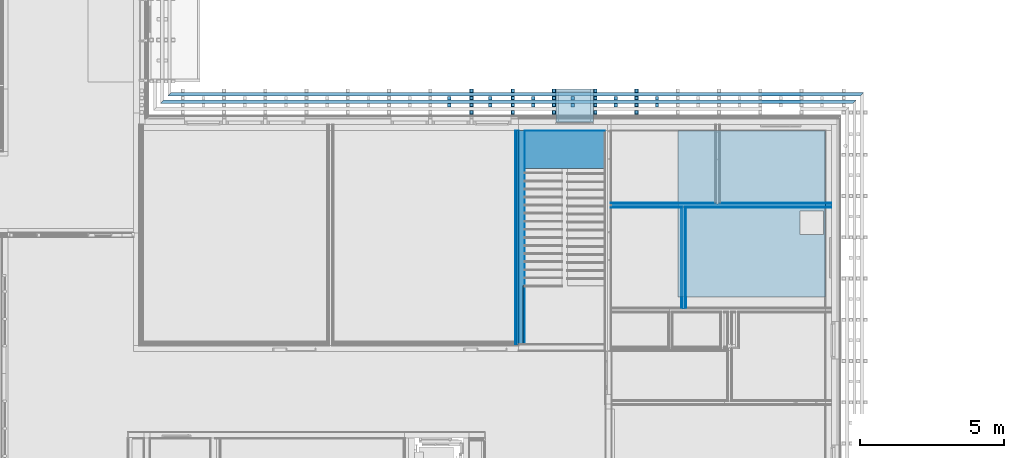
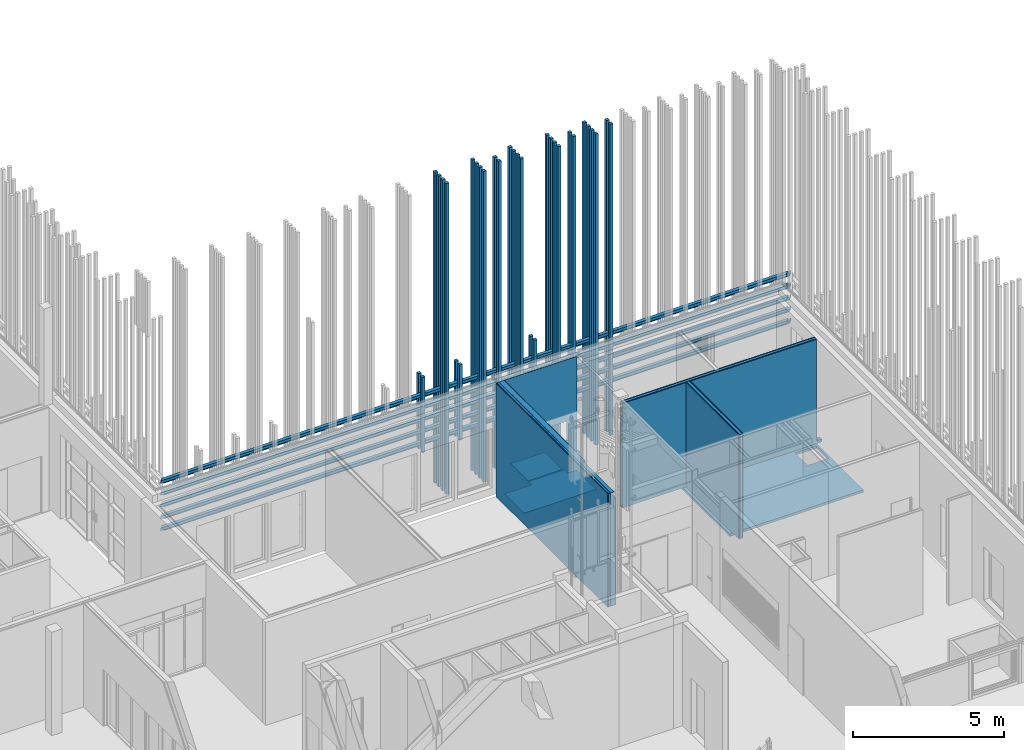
# One storey, part 193 of 260: 23 building element parts, 18 discrete accessories, 1 opening, 5 elements without a shape of their own.
"""IFC2X3 building model written with IfcOpenShell, lengths in millimetres."""

from ifc_helpers import new_model, entity, si_unit, converted_unit, derived_unit, money_unit, direction, frame, origin_with_axes, place, context, subcontext, project, spatial, faceted_brep, material, material_list, type_object, element, aggregate, save


model = new_model("IFC2X3")

# Units and contexts
model_context = context("Model", 3, precision=0.01, world=origin_with_axes(), true_north=direction((0.0, 1.0)))
body_context = subcontext(model_context, "Body", "Model", "MODEL_VIEW")
ifc_project = project(units=[si_unit("LENGTHUNIT", "METRE", prefix="MILLI"), si_unit("AREAUNIT", "SQUARE_METRE"), si_unit("VOLUMEUNIT", "CUBIC_METRE"), converted_unit("PLANEANGLEUNIT", "DEGREE", entity("IfcPlaneAngleMeasure", 0.0174532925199), si_unit("PLANEANGLEUNIT", "RADIAN"), dimensions=[0, 0, 0, 0, 0, 0, 0]), money_unit("EUR"), converted_unit("TIMEUNIT", "Year", entity("IfcTimeMeasure", 31556926.0), si_unit("TIMEUNIT", "SECOND"), dimensions=[0, 0, 1, 0, 0, 0, 0]), si_unit("MASSUNIT", "GRAM", prefix="KILO"), si_unit("THERMODYNAMICTEMPERATUREUNIT", "DEGREE_CELSIUS"), si_unit("LUMINOUSINTENSITYUNIT", "LUMEN"), si_unit("ENERGYUNIT", "JOULE", prefix="MEGA"), derived_unit("THERMALCONDUCTANCEUNIT", [(si_unit("POWERUNIT", "WATT"), 1), (si_unit("LENGTHUNIT", "METRE"), -1), (si_unit("THERMODYNAMICTEMPERATUREUNIT", "KELVIN"), -1)]), derived_unit("SPECIFICHEATCAPACITYUNIT", [(si_unit("ENERGYUNIT", "JOULE"), 1), (si_unit("MASSUNIT", "GRAM", prefix="KILO"), -1), (si_unit("THERMODYNAMICTEMPERATUREUNIT", "KELVIN"), -1)]), derived_unit("MASSDENSITYUNIT", [(si_unit("MASSUNIT", "GRAM", prefix="KILO"), 1), (si_unit("VOLUMEUNIT", "CUBIC_METRE"), -1)])], contexts=[model_context])

# Site, building, storey
site_placement = place(None, origin_with_axes())
site = spatial("IfcSite", under=ifc_project, at=site_placement, Name="Kolde pst 67a", CompositionType="ELEMENT")
building_placement = place(site_placement, origin_with_axes())
building = spatial("IfcBuilding", under=site, at=building_placement, Name="Riigigümnaasium", CompositionType="ELEMENT")
storey_placement = place(building_placement, origin_with_axes())
storey = spatial("IfcBuildingStorey", under=building, at=storey_placement, Name="1. korrus", CompositionType="ELEMENT", Elevation=0.0)

# Discrete accessories
ifc_material_1 = material(Name="_VÄLISVIIMISTLUS - sõrmjätkatud puitprussid 120x115mm, liitekohad vähemärgatavad, Platowood sõrmjätkatud kuusk või samaväärne; eeltöödeldud tuletõkkevõõbaga, tuletundlikkus B-s1, d0, Woodsafe Exterior WFX™ või samaväärne; kinnitused vastavalt EK osale")
ifc_material_list_1 = material_list([ifc_material_1, ifc_material_1, ifc_material_1, ifc_material_1])
discrete_accessory_type_1 = type_object("IfcDiscreteAccessoryType", Name="120 4-ne vertikaalne 870 x 115")
for number, where, z_axis, x_axis in (
    (1, (53692.494314, 60791.9996584, 280.0), (0.0, 0.0, 1.0), (3.13999128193e-06, -0.999999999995, 0.0)),
    (2, (52262.494314, 60791.9996584, 280.0), (0.0, 0.0, 1.0), (3.13999128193e-06, -0.999999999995, 0.0)),
    (3, (50832.494314, 60791.9996584, 280.0), (0.0, 0.0, 1.0), (3.13999128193e-06, -0.999999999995, 0.0)),
    (4, (49402.494314, 60792.0002247, 280.0), (0.0, 0.0, 1.0), (3.13999128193e-06, -0.999999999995, 0.0)),
    (5, (47972.494314, 60792.0002013, 280.0), (0.0, 0.0, 1.0), (3.13999128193e-06, -0.999999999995, 0.0)),
):
    element("IfcDiscreteAccessory", number, at=place(storey_placement, frame(where, z_axis=z_axis, x_axis=x_axis)), inside=storey, type_object=discrete_accessory_type_1, material=ifc_material_list_1, Name="Päikesevarjestus", context=body_context, shape_type="Brep", body=[
        faceted_brep([(-133.0, -70.0, 0.0), (-13.0, -70.0, 0.0), (-13.0, -70.0, 12600.0), (-133.0, -70.0, 12600.0), (-133.0, 45.0, 0.0), (-13.0, 45.0, 0.0), (-13.0, 45.0, 12600.0), (-133.0, 45.0, 12600.0)], [[[0, 1, 2, 3]], [[0, 4, 5, 1]], [[1, 5, 6, 2]], [[3, 2, 6, 7]], [[4, 0, 3, 7]], [[5, 4, 7, 6]]]),
        faceted_brep([(-383.0, -70.0, 0.0), (-263.0, -70.0, 0.0), (-263.0, -70.0, 12600.0), (-383.0, -70.0, 12600.0), (-383.0, 45.0, 0.0), (-263.0, 45.0, 0.0), (-263.0, 45.0, 12600.0), (-383.0, 45.0, 12600.0)], [[[0, 1, 2, 3]], [[0, 4, 5, 1]], [[1, 5, 6, 2]], [[3, 2, 6, 7]], [[4, 0, 3, 7]], [[5, 4, 7, 6]]]),
        faceted_brep([(-633.0, -70.0, 0.0), (-513.0, -70.0, 0.0), (-513.0, -70.0, 12600.0), (-633.0, -70.0, 12600.0), (-633.0, 45.0, 0.0), (-513.0, 45.0, 0.0), (-513.0, 45.0, 12600.0), (-633.0, 45.0, 12600.0)], [[[0, 1, 2, 3]], [[0, 4, 5, 1]], [[1, 5, 6, 2]], [[3, 2, 6, 7]], [[4, 0, 3, 7]], [[5, 4, 7, 6]]]),
        faceted_brep([(-883.0, -70.0, 0.0), (-763.0, -70.0, 0.0), (-763.0, -70.0, 12600.0), (-883.0, -70.0, 12600.0), (-883.0, 45.0, 0.0), (-763.0, 45.0, 0.0), (-763.0, 45.0, 12600.0), (-883.0, 45.0, 12600.0)], [[[0, 1, 2, 3]], [[0, 4, 5, 1]], [[1, 5, 6, 2]], [[3, 2, 6, 7]], [[4, 0, 3, 7]], [[5, 4, 7, 6]]]),
    ])
ifc_material_list_2 = material_list([ifc_material_1, ifc_material_1])
discrete_accessory_type_2 = type_object("IfcDiscreteAccessoryType", Name="1+paiksekaitse 4 tk nihkes 2 370 x 355")
for number, where, z_axis, x_axis in (
    (6, (60804.9936136, 60805.0004469, 2580.00014213), (0.0, 0.0, 1.0), (-3.26569973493e-08, 1.0, 0.0)),
    (7, (60804.9936136, 60805.0004469, 3060.00014213), (0.0, 0.0, 1.0), (-3.26569973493e-08, 1.0, 0.0)),
    (8, (60804.9936136, 60805.0004469, 3540.00014213), (0.0, 0.0, 1.0), (-3.26569973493e-08, 1.0, 0.0)),
):
    element("IfcDiscreteAccessory", number, at=place(storey_placement, frame(where, z_axis=z_axis, x_axis=x_axis)), inside=storey, type_object=discrete_accessory_type_2, material=ifc_material_list_2, Name="Päikesevarjestus", context=body_context, shape_type="Brep", body=[
        faceted_brep([(375.0, 23626.9762595, 347.001360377), (375.0, -375.000006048, 347.001360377), (495.0, -495.000007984, 357.5), (495.0, 23506.9793115, 357.5), (375.0, 23626.9762595, 242.5), (375.0, -375.000006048, 242.5), (495.0, -495.000007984, 242.5), (495.0, 23506.9793115, 242.5)], [[[0, 1, 2, 3]], [[4, 5, 1, 0]], [[5, 6, 2, 1]], [[3, 2, 6, 7]], [[4, 0, 3, 7]], [[7, 6, 5, 4]]]),
        faceted_brep([(625.0, 23376.9826178, 107.001360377), (625.0, -625.00001008, 107.001360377), (745.0, -745.000012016, 117.5), (745.0, 23256.9856698, 117.5), (625.0, 23376.9826178, 2.5), (625.0, -625.00001008, 2.5), (745.0, -745.000012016, 2.5), (745.0, 23256.9856698, 2.5)], [[[0, 1, 2, 3]], [[4, 5, 1, 0]], [[5, 6, 2, 1]], [[3, 2, 6, 7]], [[4, 0, 3, 7]], [[7, 6, 5, 4]]]),
    ])
discrete_accessory_1_placement = place(storey_placement, frame((60804.99419, 60805.0004469, 4020.00014213), z_axis=(0.0, 0.0, 1.0), x_axis=(-3.26569971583e-08, 1.0, 0.0)))
element("IfcDiscreteAccessory", 9, at=discrete_accessory_1_placement, inside=storey, type_object=discrete_accessory_type_2, material=ifc_material_list_2, Name="Päikesevarjestus", context=body_context, shape_type="Brep", body=[
    faceted_brep([(495.0, 23506.9798874, 357.5), (375.0, 23626.9768353, 347.001360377), (375.0, -374.999429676, 347.001360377), (495.0, -494.999431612, 357.5), (495.0, 23506.9798874, 242.5), (375.0, 23626.9768353, 242.5), (375.0, -374.999429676, 242.5), (495.0, -494.999431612, 242.5)], [[[0, 1, 2, 3]], [[4, 5, 1, 0]], [[1, 5, 6, 2]], [[2, 6, 7, 3]], [[4, 0, 3, 7]], [[5, 4, 7, 6]]]),
    faceted_brep([(625.0, 23376.9831938, 107.001360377), (625.0, -624.999433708, 107.001360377), (745.0, -744.999435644, 117.5), (745.0, 23256.9862459, 117.5), (625.0, 23376.9831938, 2.5), (625.0, -624.999433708, 2.5), (745.0, -744.999435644, 2.5), (745.0, 23256.9862459, 2.5)], [[[0, 1, 2, 3]], [[4, 5, 1, 0]], [[5, 6, 2, 1]], [[3, 2, 6, 7]], [[4, 0, 3, 7]], [[7, 6, 5, 4]]]),
])
discrete_accessory_2_placement = place(storey_placement, frame((60804.9936136, 60805.0004469, 2100.00014213), z_axis=(0.0, 0.0, 1.0), x_axis=(-3.26569973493e-08, 1.0, 0.0)))
element("IfcDiscreteAccessory", 10, at=discrete_accessory_2_placement, inside=storey, type_object=discrete_accessory_type_2, material=ifc_material_list_2, Name="Päikesevarjestus", context=body_context, shape_type="Brep", body=[
    faceted_brep([(375.0, 23626.9762595, 347.001360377), (375.0, -375.000006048, 347.001360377), (495.0, -495.000007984, 357.5), (495.0, 23506.9793115, 357.5), (375.0, 23626.9762595, 242.5), (375.0, -375.000006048, 242.5), (495.0, -495.000007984, 242.5), (495.0, 23506.9793115, 242.5)], [[[0, 1, 2, 3]], [[4, 5, 1, 0]], [[5, 6, 2, 1]], [[3, 2, 6, 7]], [[4, 0, 3, 7]], [[7, 6, 5, 4]]]),
    faceted_brep([(625.0, 23376.9826178, 107.001360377), (625.0, -625.00001008, 107.001360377), (745.0, -745.000012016, 117.5), (745.0, 23256.9856698, 117.5), (625.0, 23376.9826178, 2.5), (625.0, -625.00001008, 2.5), (745.0, -745.000012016, 2.5), (745.0, 23256.9856698, 2.5)], [[[0, 1, 2, 3]], [[4, 5, 1, 0]], [[5, 6, 2, 1]], [[3, 2, 6, 7]], [[4, 0, 3, 7]], [[7, 6, 5, 4]]]),
])
discrete_accessory_type_3 = type_object("IfcDiscreteAccessoryType", Name="1+paiksekaitse 3 370 x 115")
for number, where, z_axis, x_axis in (
    (11, (54334.9923672, 61772.0001843, 280.0), (0.0, 0.0, 1.0), (0.0, -1.0, 0.0)),
    (12, (52904.9923672, 61772.0001843, 280.0), (0.0, 0.0, 1.0), (0.0, -1.0, 0.0)),
    (13, (50044.9923672, 61772.0001843, 280.0), (0.0, 0.0, 1.0), (0.0, -1.0, 0.0)),
):
    element("IfcDiscreteAccessory", number, at=place(storey_placement, frame(where, z_axis=z_axis, x_axis=x_axis)), inside=storey, type_object=discrete_accessory_type_3, material=ifc_material_list_2, Name="Päikesevarjestus", context=body_context, shape_type="Brep", body=[
        faceted_brep([(467.0, 117.5, 0.0), (347.0, 117.5, 0.0), (347.0, 117.5, 12599.9999329), (467.0, 117.5, 12599.9999329), (467.0, 2.5, 0.0), (347.0, 2.5, 0.0), (347.0, 2.5, 12599.9999329), (467.0, 2.5, 12599.9999329)], [[[0, 1, 2, 3]], [[0, 4, 5, 1]], [[1, 5, 6, 2]], [[3, 2, 6, 7]], [[4, 0, 3, 7]], [[5, 4, 7, 6]]]),
        faceted_brep([(717.0, 117.5, 0.0), (597.0, 117.5, 0.0), (597.0, 117.5, 12599.9999329), (717.0, 117.5, 12599.9999329), (717.0, 2.5, 0.0), (597.0, 2.5, 0.0), (597.0, 2.5, 12599.9999329), (717.0, 2.5, 12599.9999329)], [[[0, 1, 2, 3]], [[0, 4, 5, 1]], [[1, 5, 6, 2]], [[3, 2, 6, 7]], [[4, 0, 3, 7]], [[5, 4, 7, 6]]]),
    ])
for number, where, z_axis, x_axis in (
    (14, (48554.9923672, 61772.0001843, 2100.00014213), (0.0, 0.0, 1.0), (0.0, -1.0, 0.0)),
    (15, (47124.9923672, 61772.0001843, 2100.00014213), (0.0, 0.0, 1.0), (0.0, -1.0, 0.0)),
    (16, (51414.9923672, 61772.0001843, 2100.00014213), (0.0, 0.0, 1.0), (0.0, -1.0, 0.0)),
):
    element("IfcDiscreteAccessory", number, at=place(storey_placement, frame(where, z_axis=z_axis, x_axis=x_axis)), inside=storey, type_object=discrete_accessory_type_3, material=ifc_material_list_2, Name="Päikesevarjestus", context=body_context, shape_type="Brep", body=[
        faceted_brep([(467.0, 117.5, 0.0), (347.0, 117.5, 0.0), (347.0, 117.5, 3050.0), (467.0, 117.5, 3050.0), (467.0, 2.5, 0.0), (347.0, 2.5, 0.0), (347.0, 2.5, 3050.0), (467.0, 2.5, 3050.0)], [[[0, 1, 2, 3]], [[0, 4, 5, 1]], [[1, 5, 6, 2]], [[3, 2, 6, 7]], [[4, 0, 3, 7]], [[5, 4, 7, 6]]]),
        faceted_brep([(717.0, 117.5, 0.0), (597.0, 117.5, 0.0), (597.0, 117.5, 3050.0), (717.0, 117.5, 3050.0), (717.0, 2.5, 0.0), (597.0, 2.5, 0.0), (597.0, 2.5, 3050.0), (717.0, 2.5, 3050.0)], [[[0, 1, 2, 3]], [[0, 4, 5, 1]], [[1, 5, 6, 2]], [[3, 2, 6, 7]], [[4, 0, 3, 7]], [[5, 4, 7, 6]]]),
    ])
ifc_material_2 = material(Name="_METALL - teras")
discrete_accessory_type_4 = type_object("IfcDiscreteAccessoryType", Name="_METALL - teras 22")
discrete_accessory_3_placement = place(storey_placement, frame((50842.4663698, 60229.9954049, 0.0), z_axis=(0.0, 0.0, 1.0), x_axis=(1.0, 0.0, 0.0)))
element("IfcDiscreteAccessory", 17, at=discrete_accessory_3_placement, inside=storey, type_object=discrete_accessory_type_4, material=ifc_material_2, Name="süvistatud poritõkkesüsteem 5mm vastavalt SA osale", context=body_context, shape_type="Brep", body=[
    faceted_brep([(0.0, 0.0, 0.0), (0.0, 0.0, -22.0), (-1032.45631425, 0.0, -22.0), (-1032.45631425, 0.0, 0.0), (0.0, 210.004779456, 0.0), (0.0, 210.004779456, -22.0), (1390.36814488, 210.004779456, -22.0), (1390.36814488, 0.00321708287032, -22.0), (1737.52775242, 0.00321708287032, -22.0), (1737.52775242, -1299.99521815, -22.0), (-1032.45631425, -1299.99521815, -22.0), (-1032.45631425, -1299.99521815, 0.0), (1737.52775242, -1299.99521815, 0.0), (1737.52775242, 0.00321708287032, 0.0), (1390.36814488, 0.00321708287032, 0.0), (1390.36814488, 210.004779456, 0.0)], [[[0, 1, 2, 3]], [[4, 5, 1, 0]], [[2, 1, 5, 6, 7, 8, 9, 10]], [[3, 2, 10, 11]], [[4, 0, 3, 11, 12, 13, 14, 15]], [[15, 6, 5, 4]], [[14, 7, 6, 15]], [[13, 8, 7, 14]], [[12, 9, 8, 13]], [[11, 10, 9, 12]]]),
])
discrete_accessory_4_placement = place(storey_placement, frame((52192.4945234, 61674.9994386, -20.0), z_axis=(0.0, 0.0, 1.0), x_axis=(1.0, 0.0, 0.0)))
element("IfcDiscreteAccessory", 18, at=discrete_accessory_4_placement, inside=storey, type_object=discrete_accessory_type_4, material=ifc_material_2, Name="süvistatud poritõkkesüsteem 4mm vastavalt SA osale", context=body_context, shape_type="Brep", body=[
    faceted_brep([(0.0, 0.0, 0.0), (0.0, 0.0, -22.0), (-1309.95948641, 0.00037678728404, -22.0), (-1309.95948641, 0.00037678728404, 0.0), (-0.000333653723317, -1159.99893842, 0.0), (-0.000333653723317, -1159.99893842, -22.0), (-1309.95982006, -1159.99856163, -22.0), (-1309.95982006, -1159.99856163, 0.0)], [[[0, 1, 2, 3]], [[4, 5, 1, 0]], [[2, 1, 5, 6]], [[3, 2, 6, 7]], [[4, 0, 3, 7]], [[7, 6, 5, 4]]]),
])

# Wall, building element parts
wall_type_1 = type_object("IfcWallType", Name="SS-RB-20/9_kipsil krohv+roov66 +krohv 325", PredefinedType="NOTDEFINED")
wall_1_placement = place(storey_placement, frame((49800.0100555, 52820.0001843, 0.0), z_axis=(0.0, 0.0, 1.0), x_axis=(0.0, 1.0, 0.0)))
wall_1 = element("IfcWall", 19, at=wall_1_placement, inside=storey, type_object=wall_type_1, Name="Sisesein")
ifc_material_3 = material(Name="_VIIMISTLUSKIHT - viimistlus vastavalt SA osale")
building_element_part_1_placement = place(wall_1_placement, origin_with_axes())
building_element_part_1 = element("IfcBuildingElementPart", 20, at=building_element_part_1_placement, material=ifc_material_3, Name="_VIIMISTLUSKIHT - viimistlus vastavalt SA osale", context=body_context, shape_type="Brep", body=[
    faceted_brep([(7420.0, 306.0, 4600.0), (7420.0, 315.0, 4600.0), (0.0, 315.0, 4600.0), (0.0, 306.0, 4600.0), (7420.0, 306.0, 0.0), (7420.0, 315.0, 0.0), (0.0, 315.0, 0.0), (0.0, 306.0, 0.0)], [[[0, 1, 2, 3]], [[0, 4, 5, 1]], [[1, 5, 6, 2]], [[3, 2, 6, 7]], [[4, 0, 3, 7]], [[5, 4, 7, 6]]]),
])
ifc_material_4 = material(Name="_PLAATMATERJAL - tuletõkkekipsplaat, Knauf Red GKF või samaväärne")
building_element_part_2_placement = place(wall_1_placement, origin_with_axes())
building_element_part_2 = element("IfcBuildingElementPart", 21, at=building_element_part_2_placement, material=ifc_material_4, Name="_PLAATMATERJAL - tuletõkkekipsplaat, Knauf Red GKF või samaväärne", context=body_context, shape_type="Brep", body=[
    faceted_brep([(7420.0, 291.0, 4600.0), (7420.0, 306.0, 4600.0), (0.0, 306.0, 4600.0), (0.0, 291.0, 4600.0), (7420.0, 291.0, 0.0), (7420.0, 306.0, 0.0), (0.0, 306.0, 0.0), (0.0, 291.0, 0.0)], [[[0, 1, 2, 3]], [[0, 4, 5, 1]], [[1, 5, 6, 2]], [[3, 2, 6, 7]], [[4, 0, 3, 7]], [[5, 4, 7, 6]]]),
])
ifc_material_5 = material(Name="_PLAATMATERJAL - OSB3 plaat")
building_element_part_3_placement = place(wall_1_placement, origin_with_axes())
building_element_part_3 = element("IfcBuildingElementPart", 22, at=building_element_part_3_placement, material=ifc_material_5, Name="_PLAATMATERJAL - OSB3 plaat", context=body_context, shape_type="Brep", body=[
    faceted_brep([(7420.0, 276.0, 4600.0), (7420.0, 291.0, 4600.0), (0.0, 291.0, 4600.0), (0.0, 276.0, 4600.0), (7420.0, 276.0, 0.0), (7420.0, 291.0, 0.0), (0.0, 291.0, 0.0), (0.0, 276.0, 0.0)], [[[0, 1, 2, 3]], [[0, 4, 5, 1]], [[1, 5, 6, 2]], [[3, 2, 6, 7]], [[4, 0, 3, 7]], [[5, 4, 7, 6]]]),
])
ifc_material_6 = material(Name="_KARKASS - metallkarkass CW 66/35/06, samm 600, mineraalvill karkassi vahel")
building_element_part_4_placement = place(wall_1_placement, origin_with_axes())
building_element_part_4 = element("IfcBuildingElementPart", 23, at=building_element_part_4_placement, material=ifc_material_6, Name="_KARKASS - metallkarkass CW 66/35/06, samm 600, mineraalvill karkassi vahel", context=body_context, shape_type="Brep", body=[
    faceted_brep([(7420.0, 210.0, 4600.0), (7420.0, 276.0, 4600.0), (0.0, 276.0, 4600.0), (0.0, 210.0, 4600.0), (7420.0, 210.0, 0.0), (7420.0, 276.0, 0.0), (0.0, 276.0, 0.0), (0.0, 210.0, 0.0)], [[[0, 1, 2, 3]], [[0, 4, 5, 1]], [[1, 5, 6, 2]], [[3, 2, 6, 7]], [[4, 0, 3, 7]], [[5, 4, 7, 6]]]),
])
ifc_material_7 = material(Name="_ÕHKVAHE")
building_element_part_5_placement = place(wall_1_placement, origin_with_axes())
building_element_part_5 = element("IfcBuildingElementPart", 24, at=building_element_part_5_placement, material=ifc_material_7, Name="_ÕHKVAHE", context=body_context, shape_type="Brep", body=[
    faceted_brep([(7420.0, 200.0, 4600.0), (7420.0, 210.0, 4600.0), (0.0, 210.0, 4600.0), (0.0, 200.0, 4600.0), (7420.0, 200.0, 0.0), (7420.0, 210.0, 0.0), (0.0, 210.0, 0.0), (0.0, 200.0, 0.0)], [[[0, 1, 2, 3]], [[0, 4, 5, 1]], [[1, 5, 6, 2]], [[3, 2, 6, 7]], [[4, 0, 3, 7]], [[5, 4, 7, 6]]]),
])
ifc_material_8 = material(Name="_KANDETARIND - monteeritav raudbetoon vastavalt EK osale")
building_element_part_6_placement = place(wall_1_placement, origin_with_axes())
building_element_part_6 = element("IfcBuildingElementPart", 25, at=building_element_part_6_placement, material=ifc_material_8, Name="_KANDETARIND - monteeritav raudbetoon vastavalt EK osale", context=body_context, shape_type="Brep", body=[
    faceted_brep([(2039.99901252, 60.0233833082, 4600.0), (2039.99901252, 60.0233833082, 4310.0), (2039.99939783, 0.0, 4310.0), (2039.99939783, 0.0, 4600.0), (0.0, 60.0233833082, 4310.0), (0.0, 60.0233833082, 4600.0), (0.0, 0.0, 4310.0), (0.0, 0.0, 0.0), (7420.0, 0.0, 0.0), (7420.0, 0.0, 4600.0), (7420.0, 200.0, 4600.0), (0.0, 200.0, 4600.0), (0.0, 200.0, 0.0), (7420.0, 200.0, 0.0)], [[[0, 1, 2, 3]], [[4, 1, 0, 5]], [[6, 2, 1, 4]], [[2, 6, 7, 8, 9, 3]], [[5, 0, 3, 9, 10, 11]], [[4, 5, 11, 12, 7, 6]], [[12, 13, 8, 7]], [[10, 9, 8, 13]], [[11, 10, 13, 12]]]),
])
building_element_part_7_placement = place(wall_1_placement, origin_with_axes())
building_element_part_7 = element("IfcBuildingElementPart", 26, at=building_element_part_7_placement, material=ifc_material_3, Name="_VIIMISTLUSKIHT - viimistlus vastavalt SA osale", context=body_context, shape_type="Brep", body=[
    faceted_brep([(2039.99939783, 0.0, 4600.0), (2039.99939783, 0.0, 4310.0), (2039.99946202, -10.0, 4310.0), (2039.99946202, -10.0, 4600.0), (7420.0, 0.0, 4600.0), (7420.0, 0.0, 0.0), (0.0, 0.0, 0.0), (0.0, 0.0, 4310.0), (0.0, -10.0, 4310.0), (0.0, -10.0, 0.0), (7420.0, -10.0, 0.0), (7420.0, -10.0, 4600.0)], [[[0, 1, 2, 3]], [[1, 0, 4, 5, 6, 7]], [[8, 2, 1, 7]], [[2, 8, 9, 10, 11, 3]], [[0, 3, 11, 4]], [[4, 11, 10, 5]], [[6, 5, 10, 9]], [[8, 7, 6, 9]]]),
])
aggregate(wall_1, [building_element_part_1, building_element_part_2, building_element_part_3, building_element_part_4, building_element_part_5, building_element_part_6, building_element_part_7])

wall_type_2 = type_object("IfcWallType", Name="SS-PK-10/9_vill100+2värv 170", PredefinedType="NOTDEFINED")
wall_2_placement = place(storey_placement, frame((52789.9941222, 57730.0055844, 0.0), z_axis=(0.0, 0.0, 1.0), x_axis=(1.0, 0.0, 0.0)))
wall_2 = element("IfcWall", 27, at=wall_2_placement, inside=storey, type_object=wall_type_2, Name="Sisesein")
building_element_part_8_placement = place(wall_2_placement, origin_with_axes())
building_element_part_8 = element("IfcBuildingElementPart", 28, at=building_element_part_8_placement, material=ifc_material_3, Name="_VIIMISTLUSKIHT - viimistlus vastavalt SA osale", context=body_context, shape_type="Brep", body=[
    faceted_brep([(7440.0, 0.0, 4230.00000998), (7440.0, 0.0, 100.0), (7650.0, 0.0, 100.0), (7650.0, 0.0, 0.0), (3784.99979344, 0.0, 0.0), (3784.99979344, 0.0, 4230.00000998), (7440.0, -5.0, 4230.00000998), (7440.0, -4.99999940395, 100.0), (7650.0, -4.99999940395, 100.0), (7650.0, -4.99999940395, 0.0), (3784.99979344, -4.99999970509, 0.0), (3784.99979344, -5.0, 4230.00000998)], [[[0, 1, 2, 3, 4, 5]], [[1, 0, 6, 7]], [[2, 1, 7, 8]], [[2, 8, 9, 3]], [[4, 3, 9, 10]], [[5, 4, 10, 11]], [[6, 0, 5, 11]], [[7, 6, 11, 10, 9, 8]]]),
    faceted_brep([(3624.99979344, 0.0, 0.0), (0.0, 0.0, 0.0), (0.0, 0.0, 4230.00000998), (3624.99979344, 0.0, 4230.00000998), (3624.99979344, -4.99999971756, 0.0), (0.0, -5.0, 0.0), (0.0, -5.0, 4230.00000998), (3624.99979344, -5.0, 4230.00000998)], [[[0, 1, 2, 3]], [[4, 5, 1, 0]], [[5, 6, 2, 1]], [[3, 2, 6, 7]], [[0, 3, 7, 4]], [[7, 6, 5, 4]]]),
])
building_element_part_9_placement = place(wall_2_placement, origin_with_axes())
building_element_part_9 = element("IfcBuildingElementPart", 29, at=building_element_part_9_placement, material=ifc_material_4, Name="_PLAATMATERJAL - tuletõkkekipsplaat, Knauf Red GKF või samaväärne", context=body_context, shape_type="Brep", body=[
    faceted_brep([(7450.0, -5.0, 4230.00000998), (7450.0, -4.99999940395, 100.0), (7650.0, -4.99999940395, 100.0), (7650.0, -4.99999940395, 0.0), (3769.99979344, -4.99999970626, 0.0), (3769.99979344, -5.0, 4230.00000998), (7450.0, -20.0, 4230.00000998), (7450.0, -20.000000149, 100.0), (7650.0, -20.000000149, 100.0), (7650.0, -20.000000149, 0.0), (3769.99979344, -20.0000000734, 0.0), (3769.99979344, -20.0, 4230.00000998)], [[[0, 1, 2, 3, 4, 5]], [[1, 0, 6, 7]], [[8, 2, 1, 7]], [[2, 8, 9, 3]], [[4, 3, 9, 10]], [[5, 4, 10, 11]], [[6, 0, 5, 11]], [[7, 6, 11, 10, 9, 8]]]),
    faceted_brep([(3639.99979344, -4.99999971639, 0.0), (0.0, -5.0, 0.0), (0.0, -5.0, 4230.00000998), (3639.99979344, -5.0, 4230.00000998), (3639.99979344, -20.0000000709, 0.0), (0.0, -20.0, 0.0), (0.0, -20.0, 4230.00000998), (3639.99979344, -20.0, 4230.00000998)], [[[0, 1, 2, 3]], [[4, 5, 1, 0]], [[5, 6, 2, 1]], [[3, 2, 6, 7]], [[0, 3, 7, 4]], [[7, 6, 5, 4]]]),
])
building_element_part_10_placement = place(wall_2_placement, origin_with_axes())
building_element_part_10 = element("IfcBuildingElementPart", 30, at=building_element_part_10_placement, material=ifc_material_5, Name="_PLAATMATERJAL - OSB3 plaat", context=body_context, shape_type="Brep", body=[
    faceted_brep([(7450.0, -20.0, 4230.00000998), (7450.0, -20.000000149, 100.0), (7650.0, -20.000000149, 100.0), (7650.0, -20.000000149, 0.0), (3754.99979344, -20.0000000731, 0.0), (3754.99979344, -20.0, 4230.00000998), (7450.0, -35.0, 4230.00000998), (7450.0, -35.0000008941, 100.0), (7650.0, -35.0000008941, 100.0), (7650.0, -35.0000008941, 0.0), (3754.99979344, -35.0000004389, 0.0), (3754.99979344, -35.0, 4230.00000998)], [[[0, 1, 2, 3, 4, 5]], [[1, 0, 6, 7]], [[8, 2, 1, 7]], [[2, 8, 9, 3]], [[4, 3, 9, 10]], [[5, 4, 10, 11]], [[6, 0, 5, 11]], [[7, 6, 11, 10, 9, 8]]]),
    faceted_brep([(3654.99979344, -20.0000000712, 0.0), (0.0, -20.0, 0.0), (0.0, -20.0, 4230.00000998), (3654.99979344, -20.0, 4230.00000998), (3654.99979344, -35.0000004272, 0.0), (0.0, -35.0, 0.0), (0.0, -35.0, 4230.00000998), (3654.99979344, -35.0, 4230.00000998)], [[[0, 1, 2, 3]], [[4, 5, 1, 0]], [[5, 6, 2, 1]], [[3, 2, 6, 7]], [[0, 3, 7, 4]], [[7, 6, 5, 4]]]),
])
ifc_material_9 = material(Name="_KARKASS - puitpruss 100x50mm vertikaalne, samm 600mm, vahel mineraalvill, helineeldetegur αw = 1.0, ISOVER ACOUSTIC 100mm või samaväärne")
building_element_part_11_placement = place(wall_2_placement, origin_with_axes())
building_element_part_11 = element("IfcBuildingElementPart", 31, at=building_element_part_11_placement, material=ifc_material_9, Name="_KARKASS - puitpruss 100x50mm vertikaalne, samm 600mm, vahel mineraalvill, helineeldetegur αw = 1.0, ISOVER ACOUSTIC 100mm või samaväärne", context=body_context, shape_type="Brep", body=[
    faceted_brep([(7450.0, -35.0, 4230.00000998), (7450.0, -35.0000008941, 100.0), (7650.0, -35.0000008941, 100.0), (7650.0, -35.0000008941, 0.0), (0.0, -35.0, 0.0), (0.0, -35.0, 4230.00000998), (7450.0, -135.0, 4230.00000998), (7450.0, -134.999999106, 100.0), (7650.0, -134.999999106, 100.0), (7650.0, -134.999999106, 0.0), (0.0, -135.0, 0.0), (0.0, -135.0, 4230.00000998)], [[[0, 1, 2, 3, 4, 5]], [[1, 0, 6, 7]], [[8, 2, 1, 7]], [[2, 8, 9, 3]], [[4, 3, 9, 10]], [[4, 10, 11, 5]], [[6, 0, 5, 11]], [[7, 6, 11, 10, 9, 8]]]),
])
building_element_part_12_placement = place(wall_2_placement, origin_with_axes())
building_element_part_12 = element("IfcBuildingElementPart", 32, at=building_element_part_12_placement, material=ifc_material_5, Name="_PLAATMATERJAL - OSB3 plaat", context=body_context, shape_type="Brep", body=[
    faceted_brep([(7450.0, -135.0, 4230.00000998), (7450.0, -134.999999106, 100.0), (7650.0, -134.999999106, 100.0), (7650.0, -134.999999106, 0.0), (2575.0, -134.999999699, 0.0), (2575.0, -135.0, 4230.00000998), (7450.0, -150.0, 4230.00000998), (7450.0, -149.999999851, 100.0), (7650.0, -149.999999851, 100.0), (7650.0, -149.999999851, 0.0), (2575.0, -149.99999995, 0.0), (2575.0, -150.0, 4230.00000998)], [[[0, 1, 2, 3, 4, 5]], [[1, 0, 6, 7]], [[8, 2, 1, 7]], [[2, 8, 9, 3]], [[4, 3, 9, 10]], [[5, 4, 10, 11]], [[6, 0, 5, 11]], [[7, 6, 11, 10, 9, 8]]]),
    faceted_brep([(2475.0, -134.999999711, 0.0), (0.0, -135.0, 0.0), (0.0, -135.0, 4230.00000998), (2475.0, -135.0, 4230.00000998), (2475.0, -149.999999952, 0.0), (0.0, -150.0, 0.0), (0.0, -150.0, 4230.00000998), (2475.0, -150.0, 4230.00000998)], [[[0, 1, 2, 3]], [[4, 5, 1, 0]], [[5, 6, 2, 1]], [[3, 2, 6, 7]], [[0, 3, 7, 4]], [[7, 6, 5, 4]]]),
])
building_element_part_13_placement = place(wall_2_placement, origin_with_axes())
building_element_part_13 = element("IfcBuildingElementPart", 33, at=building_element_part_13_placement, material=ifc_material_4, Name="_PLAATMATERJAL - tuletõkkekipsplaat, Knauf Red GKF või samaväärne", context=body_context, shape_type="Brep", body=[
    faceted_brep([(7450.0, -150.0, 4230.00000998), (7450.0, -149.999999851, 100.0), (7650.0, -149.999999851, 100.0), (7650.0, -149.999999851, 0.0), (2590.0, -149.99999995, 0.0), (2590.0, -150.0, 4230.00000998), (7450.0, -165.0, 4230.00000998), (7450.0, -165.000000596, 100.0), (7650.0, -165.000000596, 100.0), (7650.0, -165.000000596, 0.0), (2590.0, -165.000000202, 0.0), (2590.0, -165.0, 4230.00000998)], [[[0, 1, 2, 3, 4, 5]], [[1, 0, 6, 7]], [[8, 2, 1, 7]], [[2, 8, 9, 3]], [[4, 3, 9, 10]], [[5, 4, 10, 11]], [[6, 0, 5, 11]], [[7, 6, 11, 10, 9, 8]]]),
    faceted_brep([(2460.0, -149.999999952, 0.0), (0.0, -150.0, 0.0), (0.0, -150.0, 4230.00000998), (2460.0, -150.0, 4230.00000998), (2460.0, -165.000000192, 0.0), (0.0, -165.0, 0.0), (0.0, -165.0, 4230.00000998), (2460.0, -165.0, 4230.00000998)], [[[0, 1, 2, 3]], [[4, 5, 1, 0]], [[5, 6, 2, 1]], [[3, 2, 6, 7]], [[0, 3, 7, 4]], [[7, 6, 5, 4]]]),
])
building_element_part_14_placement = place(wall_2_placement, origin_with_axes())
building_element_part_14 = element("IfcBuildingElementPart", 34, at=building_element_part_14_placement, material=ifc_material_3, Name="_VIIMISTLUSKIHT - viimistlus vastavalt SA osale", context=body_context, shape_type="Brep", body=[
    faceted_brep([(7440.0, -165.0, 4230.00000998), (7440.0, -165.000000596, 100.0), (7650.0, -165.000000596, 100.0), (7650.0, -165.000000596, 0.0), (2605.0, -165.000000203, 0.0), (2605.0, -165.0, 4230.00000998), (7440.0, -170.0, 4230.00000998), (7440.0, -170.0, 100.0), (7650.0, -170.0, 100.0), (7650.0, -170.0, 0.0), (2605.0, -170.0, 0.0), (2605.0, -170.0, 4230.00000998)], [[[0, 1, 2, 3, 4, 5]], [[1, 0, 6, 7]], [[2, 1, 7, 8]], [[2, 8, 9, 3]], [[4, 3, 9, 10]], [[5, 4, 10, 11]], [[6, 0, 5, 11]], [[7, 6, 11, 10, 9, 8]]]),
    faceted_brep([(2445.0, -165.000000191, 0.0), (0.0, -165.0, 0.0), (0.0, -165.0, 4230.00000998), (2445.0, -165.0, 4230.00000998), (2445.0, -170.0, 0.0), (0.0, -170.0, 0.0), (0.0, -170.0, 4230.00000998), (2445.0, -170.0, 4230.00000998)], [[[0, 1, 2, 3]], [[4, 5, 1, 0]], [[5, 6, 2, 1]], [[3, 2, 6, 7]], [[0, 3, 7, 4]], [[7, 6, 5, 4]]]),
])
aggregate(wall_2, [building_element_part_8, building_element_part_9, building_element_part_10, building_element_part_11, building_element_part_12, building_element_part_13, building_element_part_14])

wall_3_placement = place(storey_placement, frame((55229.9941222, 57730.0055844, 0.0), z_axis=(0.0, 0.0, 1.0), x_axis=(0.0, -1.0, 0.0)))
wall_3 = element("IfcWall", 35, at=wall_3_placement, inside=storey, type_object=wall_type_2, Name="Sisesein")
building_element_part_15_placement = place(wall_3_placement, origin_with_axes())
building_element_part_15 = element("IfcBuildingElementPart", 36, at=building_element_part_15_placement, material=ifc_material_3, Name="_VIIMISTLUSKIHT - viimistlus vastavalt SA osale", context=body_context, shape_type="Brep", body=[
    faceted_brep([(3641.50552605, 165.0, 0.0), (170.0, 165.0, 0.0), (170.0, 170.0, 0.0), (3641.50552605, 170.0, 0.0), (3641.50552605, 165.0, 4230.0), (170.0, 165.0, 4230.0), (170.0, 170.0, 4230.0), (3641.50552605, 170.0, 4230.0)], [[[0, 1, 2, 3]], [[4, 5, 1, 0]], [[2, 1, 5, 6]], [[3, 2, 6, 7]], [[3, 7, 4, 0]], [[7, 6, 5, 4]]]),
])
building_element_part_16_placement = place(wall_3_placement, origin_with_axes())
building_element_part_16 = element("IfcBuildingElementPart", 37, at=building_element_part_16_placement, material=ifc_material_4, Name="_PLAATMATERJAL - tuletõkkekipsplaat, Knauf Red GKF või samaväärne", context=body_context, shape_type="Brep", body=[
    faceted_brep([(3646.50552605, 150.0, 0.0), (165.0, 150.0, 0.0), (165.0, 165.0, 0.0), (3646.50552605, 165.0, 0.0), (3646.50552605, 150.0, 4230.0), (165.0, 150.0, 4230.0), (165.0, 165.0, 4230.0), (3646.50552605, 165.0, 4230.0)], [[[0, 1, 2, 3]], [[4, 5, 1, 0]], [[2, 1, 5, 6]], [[3, 2, 6, 7]], [[3, 7, 4, 0]], [[7, 6, 5, 4]]]),
])
building_element_part_17_placement = place(wall_3_placement, origin_with_axes())
building_element_part_17 = element("IfcBuildingElementPart", 38, at=building_element_part_17_placement, material=ifc_material_5, Name="_PLAATMATERJAL - OSB3 plaat", context=body_context, shape_type="Brep", body=[
    faceted_brep([(3661.50552605, 135.0, 0.0), (150.0, 135.0, 0.0), (150.0, 150.0, 0.0), (3661.50552605, 150.0, 0.0), (3661.50552605, 135.0, 4230.0), (150.0, 135.0, 4230.0), (150.0, 150.0, 4230.0), (3661.50552605, 150.0, 4230.0)], [[[0, 1, 2, 3]], [[4, 5, 1, 0]], [[2, 1, 5, 6]], [[3, 2, 6, 7]], [[3, 7, 4, 0]], [[7, 6, 5, 4]]]),
])
building_element_part_18_placement = place(wall_3_placement, origin_with_axes())
building_element_part_18 = element("IfcBuildingElementPart", 39, at=building_element_part_18_placement, material=ifc_material_9, Name="_KARKASS - puitpruss 100x50mm vertikaalne, samm 600mm, vahel mineraalvill, helineeldetegur αw = 1.0, ISOVER ACOUSTIC 100mm või samaväärne", context=body_context, shape_type="Brep", body=[
    faceted_brep([(3676.50552605, 35.0, 0.0), (135.0, 35.0, 0.0), (135.0, 135.0, 0.0), (3676.50552605, 135.0, 0.0), (3676.50552605, 35.0, 4230.0), (135.0, 35.0, 4230.0), (135.0, 135.0, 4230.0), (3676.50552605, 135.0, 4230.0)], [[[0, 1, 2, 3]], [[4, 5, 1, 0]], [[2, 1, 5, 6]], [[3, 2, 6, 7]], [[3, 7, 4, 0]], [[7, 6, 5, 4]]]),
])
building_element_part_19_placement = place(wall_3_placement, origin_with_axes())
building_element_part_19 = element("IfcBuildingElementPart", 40, at=building_element_part_19_placement, material=ifc_material_5, Name="_PLAATMATERJAL - OSB3 plaat", context=body_context, shape_type="Brep", body=[
    faceted_brep([(3661.50552605, 20.0, 0.0), (150.0, 20.0, 0.0), (150.0, 35.0, 0.0), (3661.50552605, 35.0, 0.0), (3661.50552605, 20.0, 4230.0), (150.0, 20.0, 4230.0), (150.0, 35.0, 4230.0), (3661.50552605, 35.0, 4230.0)], [[[0, 1, 2, 3]], [[4, 5, 1, 0]], [[2, 1, 5, 6]], [[3, 2, 6, 7]], [[3, 7, 4, 0]], [[7, 6, 5, 4]]]),
])
building_element_part_20_placement = place(wall_3_placement, origin_with_axes())
building_element_part_20 = element("IfcBuildingElementPart", 41, at=building_element_part_20_placement, material=ifc_material_4, Name="_PLAATMATERJAL - tuletõkkekipsplaat, Knauf Red GKF või samaväärne", context=body_context, shape_type="Brep", body=[
    faceted_brep([(3646.50552605, 5.0, 0.0), (165.0, 5.0, 0.0), (165.0, 20.0, 0.0), (3646.50552605, 20.0, 0.0), (3646.50552605, 5.0, 4230.0), (165.0, 5.0, 4230.0), (165.0, 20.0, 4230.0), (3646.50552605, 20.0, 4230.0)], [[[0, 1, 2, 3]], [[4, 5, 1, 0]], [[2, 1, 5, 6]], [[3, 2, 6, 7]], [[3, 7, 4, 0]], [[7, 6, 5, 4]]]),
])
building_element_part_21_placement = place(wall_3_placement, origin_with_axes())
building_element_part_21 = element("IfcBuildingElementPart", 42, at=building_element_part_21_placement, material=ifc_material_3, Name="_VIIMISTLUSKIHT - viimistlus vastavalt SA osale", context=body_context, shape_type="Brep", body=[
    faceted_brep([(3641.50552605, 0.0, 0.0), (170.0, 0.0, 0.0), (170.0, 5.0, 0.0), (3641.50552605, 5.0, 0.0), (3641.50552605, 0.0, 4230.0), (170.0, 0.0, 4230.0), (170.0, 5.0, 4230.0), (3641.50552605, 5.0, 4230.0)], [[[0, 1, 2, 3]], [[4, 5, 1, 0]], [[2, 1, 5, 6]], [[3, 2, 6, 7]], [[3, 7, 4, 0]], [[7, 6, 5, 4]]]),
])
aggregate(wall_3, [building_element_part_15, building_element_part_16, building_element_part_17, building_element_part_18, building_element_part_19, building_element_part_20, building_element_part_21])

# Wall, opening, building element part
wall_type_3 = type_object("IfcWallType", Name="VS-RB-20/1_soojust 200+laudis 522", PredefinedType="NOTDEFINED")
wall_4_placement = place(storey_placement, frame((52789.9941222, 60440.0001843, 100.0), z_axis=(0.0, 0.0, 1.0), x_axis=(-1.0, 0.0, 0.0)))
wall_4 = element("IfcWall", 43, at=wall_4_placement, inside=storey, type_object=wall_type_3, Name="Välissein")
opening_placement = place(wall_4_placement, frame((1254.99815344, 0.0, -100.0), z_axis=(0.0, 0.0, 1.0), x_axis=(1.0, 0.0, 0.0)))
element("IfcOpeningElement", 44, at=opening_placement, cuts=wall_4, Name="Välisuks", context=body_context, shape_type="Brep", body=[
    faceted_brep([(655.001695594, -80.0, 2100.0), (655.001695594, -80.0, 0.0), (655.001695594, 732.0, 0.0), (655.001695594, 732.0, 2100.0), (-655.001695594, -80.0, 2100.0), (-655.001695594, -80.0, 0.0), (-655.001695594, 732.0, 0.0), (-655.001695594, 732.0, 2100.0)], [[[0, 1, 2, 3]], [[0, 4, 5, 1]], [[1, 5, 6, 2]], [[3, 2, 6, 7]], [[4, 0, 3, 7]], [[5, 4, 7, 6]]]),
    faceted_brep([(655.001695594, -80.0, 0.0), (655.001695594, -80.0, 2100.0), (655.001695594, -834.0, 2100.0), (655.001695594, -834.0, 0.0), (-655.001695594, -80.0, 0.0), (-655.001695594, -80.0, 2100.0), (-655.001695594, -834.0, 2100.0), (-655.001695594, -834.0, 0.0)], [[[0, 1, 2, 3]], [[0, 4, 5, 1]], [[1, 5, 6, 2]], [[3, 2, 6, 7]], [[4, 0, 3, 7]], [[5, 4, 7, 6]]]),
])
building_element_part_22_placement = place(wall_4_placement, origin_with_axes())
building_element_part_22 = element("IfcBuildingElementPart", 45, at=building_element_part_22_placement, material=ifc_material_3, Name="_VIIMISTLUSKIHT - viimistlus vastavalt SA osale", context=body_context, shape_type="Brep", body=[
    faceted_brep([(210.0, 210.0, 4500.0), (210.0, 200.0, 4500.0), (2979.98406667, 200.0, 4500.0), (2979.98406667, 210.0, 4500.0), (210.0, 200.0, 0.0), (210.0, 210.0, 2000.0), (210.0, 210.0, 0.0), (599.99645785, 200.0, 0.0), (599.99645785, 200.0, 2000.0), (1909.99984904, 200.0, 2000.0), (1909.99984904, 200.0, 0.0), (2979.98406667, 200.0, 0.0), (2979.98406667, 210.0, 0.0), (1909.99984904, 210.0, 0.0), (1909.99984904, 210.0, 2000.0), (599.99645785, 210.0, 2000.0), (599.99645785, 210.0, 0.0)], [[[0, 1, 2, 3]], [[4, 1, 0, 5, 6]], [[1, 4, 7, 8, 9, 10, 11, 2]], [[12, 3, 2, 11]], [[5, 0, 3, 12, 13, 14, 15, 16, 6]], [[4, 6, 16, 7]], [[16, 15, 8, 7]], [[15, 14, 9, 8]], [[14, 13, 10, 9]], [[13, 12, 11, 10]]]),
])
aggregate(wall_4, [building_element_part_22])

# Slab, building element part
slab_type = type_object("IfcSlabType", Name="VL-RBM-20/2_mahuti vahelagi 350", PredefinedType="NOTDEFINED")
slab_placement = place(storey_placement, frame((55116.9820755, 60240.0001843, 0.0), z_axis=(0.0, 0.0, 1.0), x_axis=(1.0, 0.0, 0.0)))
slab = element("IfcSlab", 46, at=slab_placement, inside=storey, type_object=slab_type, Name="Mahuti vahelagi", PredefinedType="NOTDEFINED")
ifc_material_10 = material(Name="_PEALEVALUKIHT - raudbetoonplaat vastavalt EK osale, vajadusel põrandküte")
building_element_part_23_placement = place(slab_placement, origin_with_axes())
building_element_part_23 = element("IfcBuildingElementPart", 47, at=building_element_part_23_placement, material=ifc_material_10, Name="_PEALEVALUKIHT - raudbetoonplaat vastavalt EK osale, vajadusel põrandküte", context=body_context, shape_type="Brep", body=[
    faceted_brep([(0.0, -5770.00011259, -100.0), (0.0, -5770.00011259, 0.0), (0.0, 0.0, 0.0), (0.0, 0.0, -100.0), (5123.01201107, -5770.00011259, -100.0), (5123.01201107, -5770.00011259, 0.0), (5123.01201107, -5250.00011972, 0.0), (5123.01201107, 0.0, 0.0), (4231.15998644, -3610.35958099, 0.0), (4231.15998644, -2783.03824619, 0.0), (5055.66491577, -2783.03824619, 0.0), (5055.66491577, -3610.35958099, 0.0), (5123.01201107, 0.0, -100.0), (5123.01201107, -5250.00011972, -100.0), (4231.15998644, -3610.35958099, -100.0), (5055.66491577, -3610.35958099, -100.0), (5055.66491577, -2783.03824619, -100.0), (4231.15998644, -2783.03824619, -100.0)], [[[0, 1, 2, 3]], [[4, 5, 1, 0]], [[2, 1, 5, 6, 7], [8, 9, 10, 11]], [[3, 2, 7, 12]], [[3, 12, 13, 4, 0], [14, 15, 16, 17]], [[13, 6, 5, 4]], [[12, 7, 6, 13]], [[17, 9, 8, 14]], [[16, 10, 9, 17]], [[15, 11, 10, 16]], [[14, 8, 11, 15]]]),
])
aggregate(slab, [building_element_part_23])

save(model, "model.ifc")
